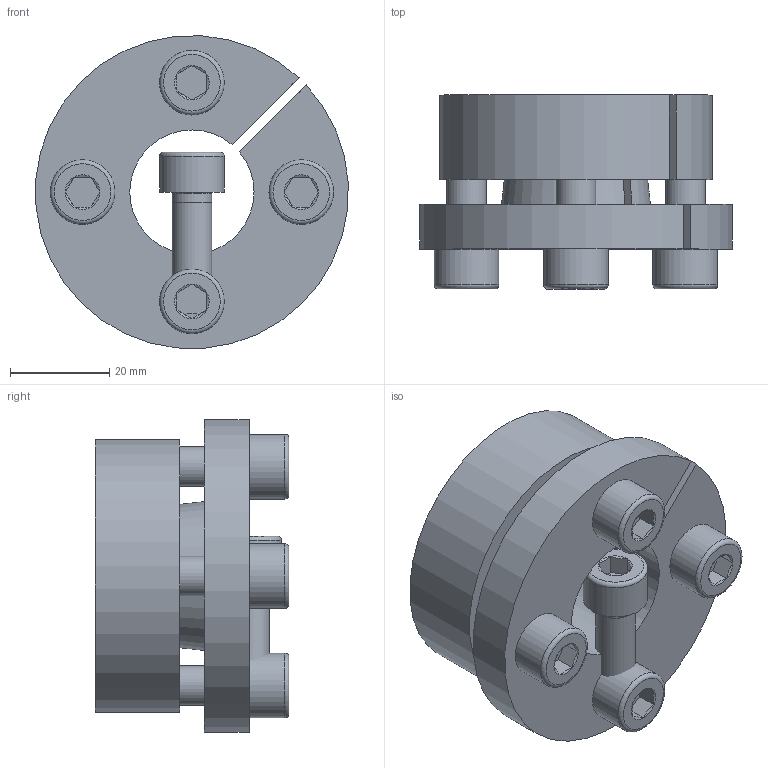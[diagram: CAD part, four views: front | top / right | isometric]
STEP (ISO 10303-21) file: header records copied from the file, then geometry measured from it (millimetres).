
FILE_DESCRIPTION( ( 'Unknown' ), '1' );
FILE_NAME( 'C:/Dokumente und Einstellungen/Sven/Desktop/15/KBS 15 - 25 x 55.stp', 'Unknown', ( 'Unknown' ), ( 'Unknown' ), 'XStep 1.0', 'Unknown', ' ' );
FILE_SCHEMA( ( 'automotive_design' ) );
Length unit declared in the file: millimetre
Products named in the file (3): Assem1; ISO EN DIN 4762 M8x25_7; KBS 15 - 25 x 55_0
Bounding box: 62.84 x 39 x 62.84 mm (x, y, z)
Volume: 113054.4 mm3; surface area: 43636.8 mm2
Topology: 7 solids, 7 shells, 165 faces, 342 edges, 211 vertices
Faces by surface type: plane 74, cylinder 42, cone 39, torus 10
Full cylindrical faces by diameter (mm): 6.647 x8, 7 x5, 8 x10, 9 x8, 13 x5
Entity records: 1434 total; most frequent: CARTESIAN_POINT 245, DIRECTION 216, ORIENTED_EDGE 162, AXIS2_PLACEMENT_3D 94, EDGE_CURVE 81, EDGE_LOOP 80, FACE_OUTER_BOUND 59, VERTEX_POINT 59
